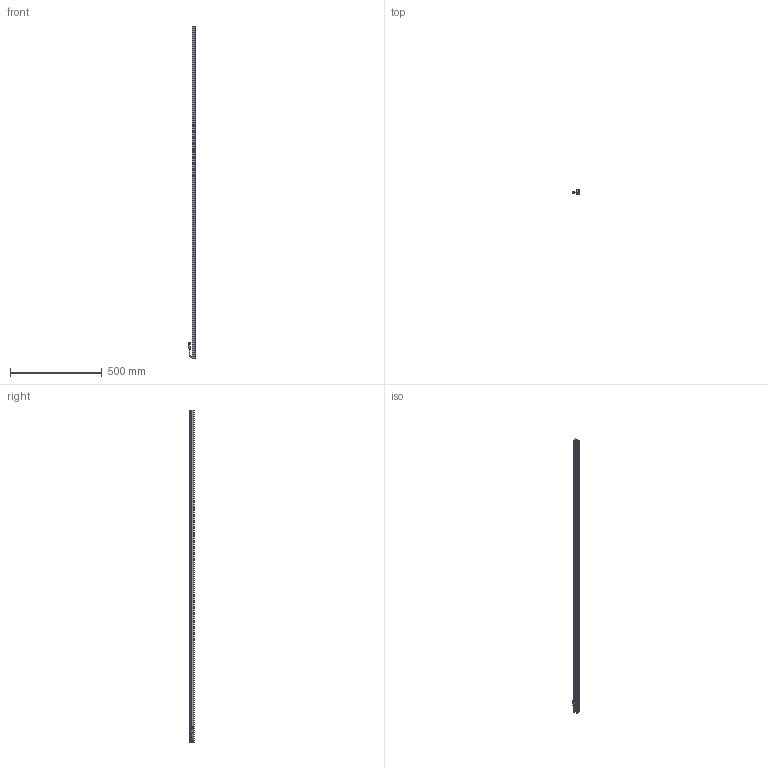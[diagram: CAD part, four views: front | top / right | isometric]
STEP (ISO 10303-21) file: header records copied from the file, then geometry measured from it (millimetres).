
FILE_DESCRIPTION (( 'STEP AP203' ), '1' );
FILE_NAME ('CK-BL181218.STEP', '2025-12-27T02:44:23', ( '' ), ( '' ), 'SwSTEP 2.0', 'SolidWorks 2022', '' );
FILE_SCHEMA (( 'CONFIG_CONTROL_DESIGN' ));
Length unit declared in the file: millimetre
Products named in the file (6): CK-BL181218-001A; 十字沉头螺丝 M2x10; CK-BL181218; 光源线-01; CK-BL181218-003A; CK-BL181218-002A
Assembly tree (9 placements, depth 2):
  CK-BL181218
    CK-BL181218-001A
    CK-BL181218-002A  x2
    CK-BL181218-003A
    光源线-01
    十字沉头螺丝 M2x10  x4
Bounding box: 37.34 x 27 x 1812 mm (x, y, z)
Volume: 396839.3 mm3; surface area: 391883.5 mm2
Topology: 11 solids, 11 shells, 474 faces, 1231 edges, 780 vertices
Faces by surface type: plane 271, cylinder 149, cone 34, bspline 20
Entity records: 12442 total; most frequent: CARTESIAN_POINT 2514, ORIENTED_EDGE 1936, DIRECTION 1916, EDGE_CURVE 968, LINE 668, VECTOR 668, VERTEX_POINT 626, AXIS2_PLACEMENT_3D 624
